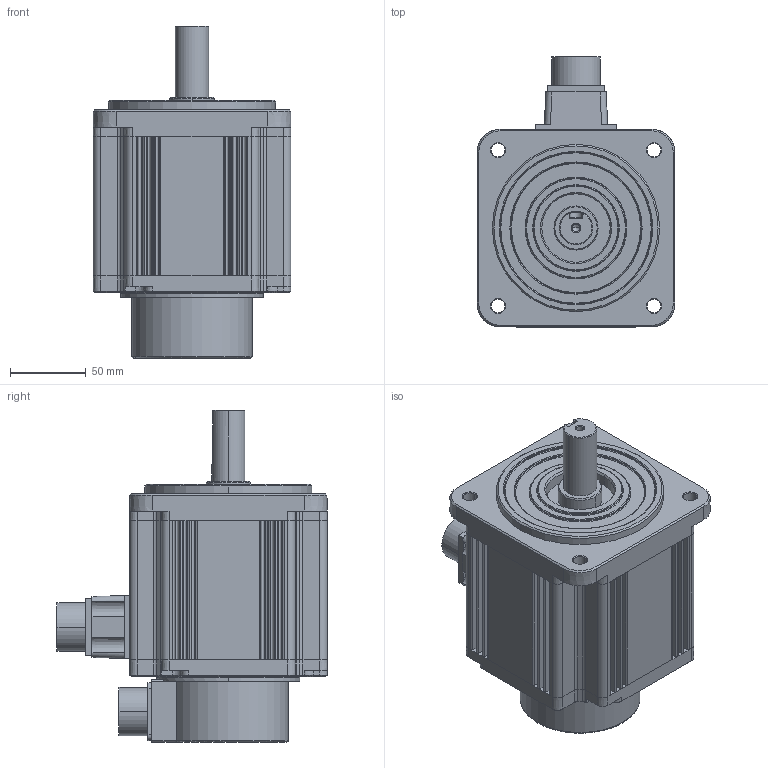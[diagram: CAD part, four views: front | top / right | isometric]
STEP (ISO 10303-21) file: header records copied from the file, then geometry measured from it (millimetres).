
FILE_DESCRIPTION((''),'2;1');
FILE_NAME('ECMA-GX1309ES','2015-04-01T',('MIO.CHEN'),(''),'PRO/ENGINEER BY PARAMETRIC TECHNOLOGY CORPORATION, 2010180','PRO/ENGINEER BY PARAMETRIC TECHNOLOGY CORPORATION, 2010180','');
FILE_SCHEMA(('AUTOMOTIVE_DESIGN_CC2 { 1 2 10303 214 -1 1 5 2 }'));
Length unit declared in the file: millimetre
Products named in the file (1): ECMA-GX1309ES
Bounding box: 130 x 177.75 x 218.5 mm (x, y, z)
Volume: 2159782.3 mm3; surface area: 140067.3 mm2
Topology: 1 solids, 1 shells, 516 faces, 1243 edges, 742 vertices
Faces by surface type: plane 265, cylinder 132, cone 101, torus 17, bspline 1
Entity records: 14997 total; most frequent: CARTESIAN_POINT 2751, DIRECTION 2649, ORIENTED_EDGE 2482, EDGE_CURVE 1241, AXIS2_PLACEMENT_3D 936, VECTOR 777, LINE 777, VERTEX_POINT 742
